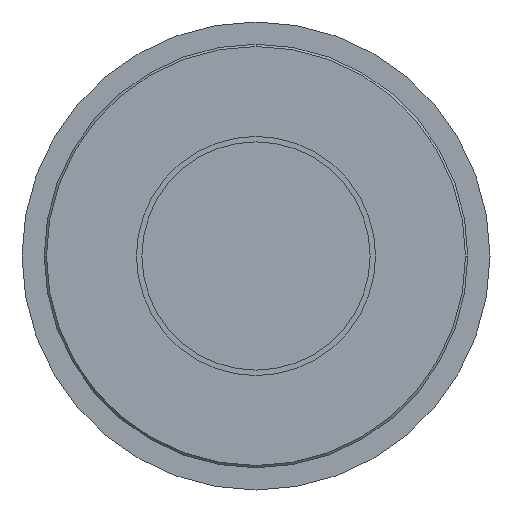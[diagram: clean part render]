
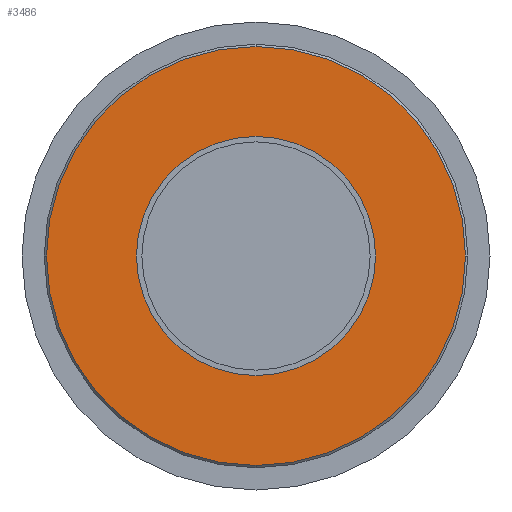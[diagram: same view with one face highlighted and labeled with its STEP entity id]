
A CAD part, front view. The second image highlights one B-rep face of the part: STEP entity #3486.
In plain terms, the highlighted planar face has unit normal (0, -1, 0).
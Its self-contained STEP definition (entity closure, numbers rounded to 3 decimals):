
#49=CARTESIAN_POINT('',(0.,0.,13.1));
#50=VERTEX_POINT('',#49);
#59=CARTESIAN_POINT('',(-13.1,0.,0.0));
#60=VERTEX_POINT('',#59);
#61=CARTESIAN_POINT('',(0.,0.,0.0));
#62=DIRECTION('',(0.0,1.0,0.0));
#63=DIRECTION('',(-1.0,0.0,0.0));
#64=AXIS2_PLACEMENT_3D('',#61,#62,#63);
#65=CIRCLE('',#64,13.1);
#66=EDGE_CURVE('',#60,#50,#65,.T.);
#717=CARTESIAN_POINT('',(0.,0.0,-22.954));
#718=VERTEX_POINT('',#717);
#734=CARTESIAN_POINT('',(22.954,0.,0.));
#735=VERTEX_POINT('',#734);
#742=CARTESIAN_POINT('',(0.0,0.,0.0));
#743=DIRECTION('',(0.0,1.0,0.0));
#744=DIRECTION('',(-1.0,0.0,0.0));
#745=AXIS2_PLACEMENT_3D('',#742,#743,#744);
#746=CIRCLE('',#745,22.954);
#747=EDGE_CURVE('',#735,#718,#746,.T.);
#1003=CARTESIAN_POINT('',(0.,0.0,22.954));
#1004=VERTEX_POINT('',#1003);
#1020=CARTESIAN_POINT('',(-22.954,0.,0.0));
#1021=VERTEX_POINT('',#1020);
#1028=CARTESIAN_POINT('',(0.0,0.,0.0));
#1029=DIRECTION('',(0.0,1.0,0.0));
#1030=DIRECTION('',(-1.0,0.0,0.0));
#1031=AXIS2_PLACEMENT_3D('',#1028,#1029,#1030);
#1032=CIRCLE('',#1031,22.954);
#1033=EDGE_CURVE('',#1021,#1004,#1032,.T.);
#1693=CARTESIAN_POINT('',(0.,0.,-13.1));
#1694=VERTEX_POINT('',#1693);
#1703=CARTESIAN_POINT('',(13.1,0.,0.));
#1704=VERTEX_POINT('',#1703);
#1705=CARTESIAN_POINT('',(0.,0.,0.0));
#1706=DIRECTION('',(0.0,1.0,0.0));
#1707=DIRECTION('',(-1.0,0.0,0.0));
#1708=AXIS2_PLACEMENT_3D('',#1705,#1706,#1707);
#1709=CIRCLE('',#1708,13.1);
#1710=EDGE_CURVE('',#1704,#1694,#1709,.T.);
#1744=CARTESIAN_POINT('',(0.,0.,0.0));
#1745=DIRECTION('',(0.0,1.0,0.0));
#1746=DIRECTION('',(-1.0,0.0,0.0));
#1747=AXIS2_PLACEMENT_3D('',#1744,#1745,#1746);
#1748=CIRCLE('',#1747,13.1);
#1749=EDGE_CURVE('',#1694,#60,#1748,.T.);
#2278=CARTESIAN_POINT('',(0.0,0.,0.0));
#2279=DIRECTION('',(0.0,1.0,0.0));
#2280=DIRECTION('',(-1.0,0.0,0.0));
#2281=AXIS2_PLACEMENT_3D('',#2278,#2279,#2280);
#2282=CIRCLE('',#2281,22.954);
#2283=EDGE_CURVE('',#1004,#735,#2282,.T.);
#2784=CARTESIAN_POINT('',(0.0,0.,0.0));
#2785=DIRECTION('',(0.0,1.0,0.0));
#2786=DIRECTION('',(-1.0,0.0,0.0));
#2787=AXIS2_PLACEMENT_3D('',#2784,#2785,#2786);
#2788=CIRCLE('',#2787,22.954);
#2789=EDGE_CURVE('',#718,#1021,#2788,.T.);
#3459=CARTESIAN_POINT('',(0.,0.,0.0));
#3460=DIRECTION('',(0.0,1.0,0.0));
#3461=DIRECTION('',(-1.0,0.0,0.0));
#3462=AXIS2_PLACEMENT_3D('',#3459,#3460,#3461);
#3463=CIRCLE('',#3462,13.1);
#3464=EDGE_CURVE('',#50,#1704,#3463,.T.);
#3469=CARTESIAN_POINT('',(-25.249,0.,25.249));
#3470=DIRECTION('',(0.0,-1.0,0.0));
#3471=DIRECTION('',(0.0,0.0,-1.0));
#3472=AXIS2_PLACEMENT_3D('',#3469,#3470,#3471);
#3473=PLANE('',#3472);
#3474=ORIENTED_EDGE('',*,*,#1033,.F.);
#3475=ORIENTED_EDGE('',*,*,#2789,.F.);
#3476=ORIENTED_EDGE('',*,*,#747,.F.);
#3477=ORIENTED_EDGE('',*,*,#2283,.F.);
#3478=EDGE_LOOP('',(#3474,#3475,#3476,#3477));
#3479=FACE_OUTER_BOUND('',#3478,.T.);
#3480=ORIENTED_EDGE('',*,*,#66,.T.);
#3481=ORIENTED_EDGE('',*,*,#3464,.T.);
#3482=ORIENTED_EDGE('',*,*,#1710,.T.);
#3483=ORIENTED_EDGE('',*,*,#1749,.T.);
#3484=EDGE_LOOP('',(#3480,#3481,#3482,#3483));
#3485=FACE_BOUND('',#3484,.T.);
#3486=ADVANCED_FACE('',(#3479,#3485),#3473,.T.);
